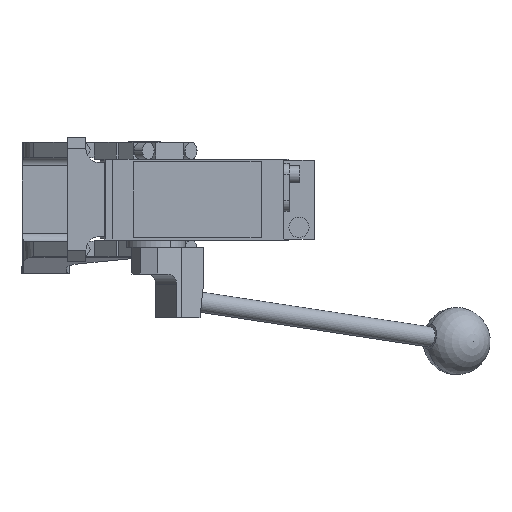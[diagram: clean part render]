
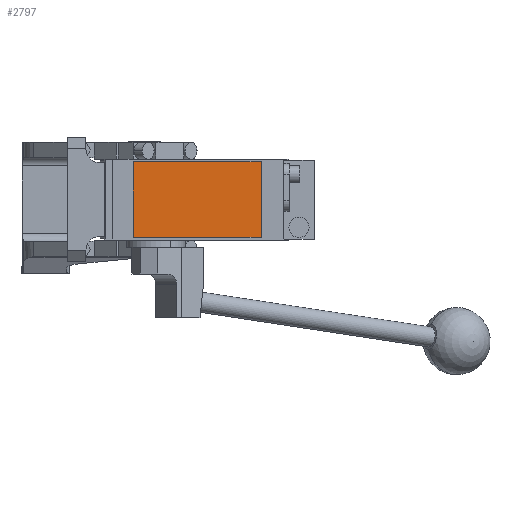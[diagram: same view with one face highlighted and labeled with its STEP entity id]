
A CAD part, front view. The second image highlights one B-rep face of the part: STEP entity #2797.
In plain terms, the highlighted planar face has unit normal (0, -1, 0).
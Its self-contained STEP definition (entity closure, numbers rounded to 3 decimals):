
#282 = ORIENTED_EDGE ( 'NONE', *, *, #7703, .T. ) ;
#1898 = DIRECTION ( 'NONE',  ( 1., 0., 0. ) ) ;
#2446 = VERTEX_POINT ( 'NONE', #8785 ) ;
#2721 = ORIENTED_EDGE ( 'NONE', *, *, #13874, .T. ) ;
#2797 = ADVANCED_FACE ( 'NONE', ( #9901 ), #4860, .T. ) ;
#3049 = CARTESIAN_POINT ( 'NONE',  ( -7., -280.5, 22.5 ) ) ;
#3129 = LINE ( 'NONE', #3049, #14938 ) ;
#3629 = CARTESIAN_POINT ( 'NONE',  ( -7., -280.5, -22.5 ) ) ;
#3649 = DIRECTION ( 'NONE',  ( 0., 0., -1. ) ) ;
#3941 = VECTOR ( 'NONE', #13668, 1000. ) ;
#4515 = LINE ( 'NONE', #8261, #11620 ) ;
#4860 = PLANE ( 'NONE',  #12671 ) ;
#5053 = LINE ( 'NONE', #12450, #3941 ) ;
#5346 = VERTEX_POINT ( 'NONE', #6267 ) ;
#5542 = CARTESIAN_POINT ( 'NONE',  ( 69., -280.5, 22.5 ) ) ;
#6156 = DIRECTION ( 'NONE',  ( 0., -1., 0. ) ) ;
#6267 = CARTESIAN_POINT ( 'NONE',  ( -7., -280.5, 22.5 ) ) ;
#6355 = EDGE_LOOP ( 'NONE', ( #282, #6473, #2721, #7508 ) ) ;
#6473 = ORIENTED_EDGE ( 'NONE', *, *, #14322, .T. ) ;
#7508 = ORIENTED_EDGE ( 'NONE', *, *, #12882, .T. ) ;
#7670 = VERTEX_POINT ( 'NONE', #5542 ) ;
#7703 = EDGE_CURVE ( 'NONE', #5346, #13465, #3129, .T. ) ;
#8261 = CARTESIAN_POINT ( 'NONE',  ( -7., -280.5, -22.5 ) ) ;
#8785 = CARTESIAN_POINT ( 'NONE',  ( 69., -280.5, -22.5 ) ) ;
#8998 = VECTOR ( 'NONE', #13157, 1000. ) ;
#9901 = FACE_OUTER_BOUND ( 'NONE', #6355, .T. ) ;
#11620 = VECTOR ( 'NONE', #1898, 1000. ) ;
#12450 = CARTESIAN_POINT ( 'NONE',  ( 69., -280.5, 22.5 ) ) ;
#12671 = AXIS2_PLACEMENT_3D ( 'NONE', #14769, #6156, #3649 ) ;
#12882 = EDGE_CURVE ( 'NONE', #7670, #5346, #13315, .T. ) ;
#13034 = DIRECTION ( 'NONE',  ( 0., 0., -1. ) ) ;
#13157 = DIRECTION ( 'NONE',  ( -1., 0., 0. ) ) ;
#13315 = LINE ( 'NONE', #15579, #8998 ) ;
#13465 = VERTEX_POINT ( 'NONE', #3629 ) ;
#13668 = DIRECTION ( 'NONE',  ( 0., 0., 1. ) ) ;
#13874 = EDGE_CURVE ( 'NONE', #2446, #7670, #5053, .T. ) ;
#14322 = EDGE_CURVE ( 'NONE', #13465, #2446, #4515, .T. ) ;
#14769 = CARTESIAN_POINT ( 'NONE',  ( 0., -280.5, 0. ) ) ;
#14938 = VECTOR ( 'NONE', #13034, 1000. ) ;
#15579 = CARTESIAN_POINT ( 'NONE',  ( -7., -280.5, 22.5 ) ) ;
